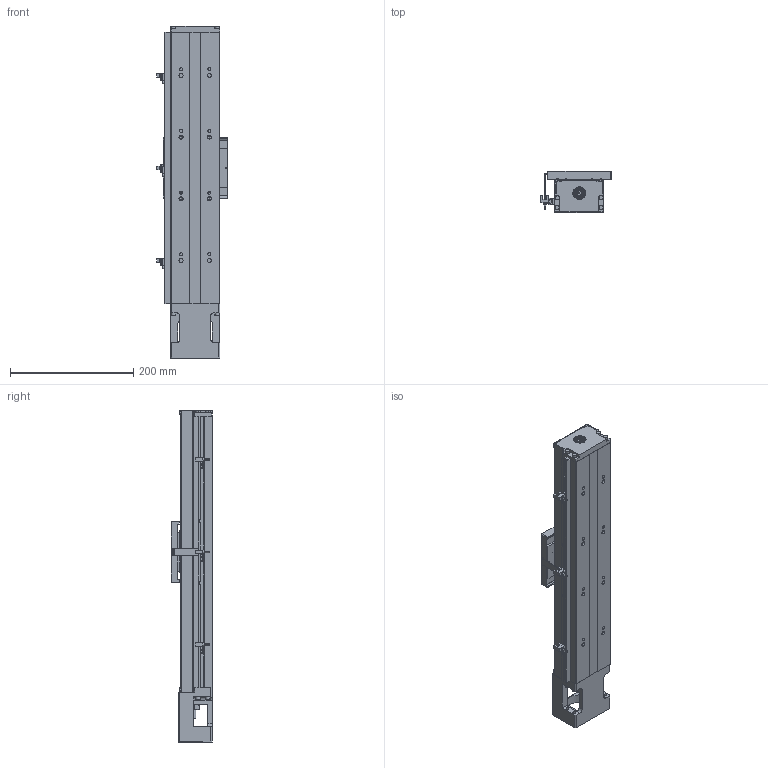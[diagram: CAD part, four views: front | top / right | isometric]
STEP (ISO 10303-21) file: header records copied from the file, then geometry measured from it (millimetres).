
FILE_DESCRIPTION (( 'STEP AP203' ), '1' );
FILE_NAME ('GKAC4580-300-12N-P10-CPXXX-網站用圖.STEP', '2023-04-14T02:31:42', ( '' ), ( '' ), 'SwSTEP 2.0', 'SolidWorks 2019', '' );
FILE_SCHEMA (( 'CONFIG_CONTROL_DESIGN' ));
Length unit declared in the file: millimetre
Products named in the file (3): Group2^GKAC4580-300-12N-P10-CPXXX_defeature-網站用圖_GMT; GKAC4580-300-12N-P10-CPXXX-網站用圖; Group1^GKAC4580-300-12N-P10-CPXXX_defeature-網站用圖_GMT
Assembly tree (2 placements, depth 2):
  GKAC4580-300-12N-P10-CPXXX-網站用圖
    Group1^GKAC4580-300-12N-P10-CPXXX_defeature-網站用圖_GMT
    Group2^GKAC4580-300-12N-P10-CPXXX_defeature-網站用圖_GMT
Bounding box: 114.4 x 67 x 538 mm (x, y, z)
Volume: 1290997.2 mm3; surface area: 421740.4 mm2
Topology: 27 solids, 37 shells, 2455 faces, 6487 edges, 4069 vertices
Faces by surface type: plane 1159, cylinder 768, torus 240, cone 220, sphere 50, bspline 18
Entity records: 90096 total; most frequent: CARTESIAN_POINT 28213, DIRECTION 13406, ORIENTED_EDGE 12792, EDGE_CURVE 6396, AXIS2_PLACEMENT_3D 5031, VERTEX_POINT 4050, VECTOR 3344, LINE 3344
